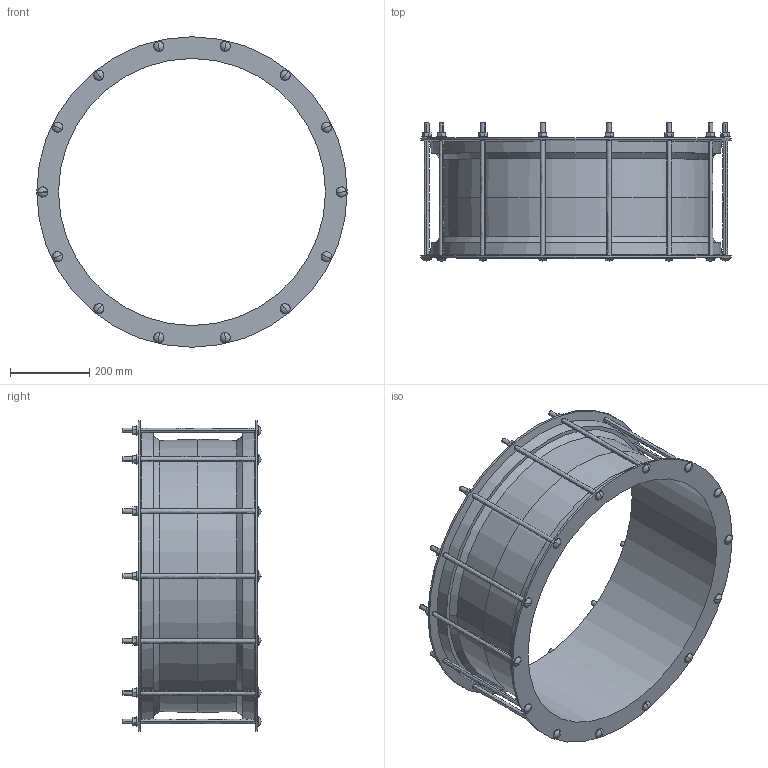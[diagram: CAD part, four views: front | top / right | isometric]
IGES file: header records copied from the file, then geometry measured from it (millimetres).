
Start section:  PTC IGES file: 654_671.igs
Global section: file name: 654_671.igs; native system: Creo Parametric by PTC Inc.; preprocessor: 2016130; author: mfairey; organization: Unknown; date: 20181218.153524; units: millimetre
Bounding box: 783 x 348 x 783 mm (x, y, z)
Surface area: 1898823.1 mm2 (no closed solid volume)
Topology: 0 solids, 0 shells, 292 faces, 1388 edges, 1360 vertices
Faces by surface type: revolution 162, bspline 130
